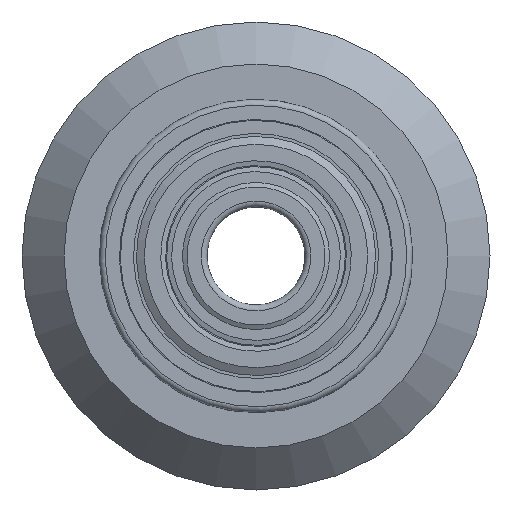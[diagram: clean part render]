
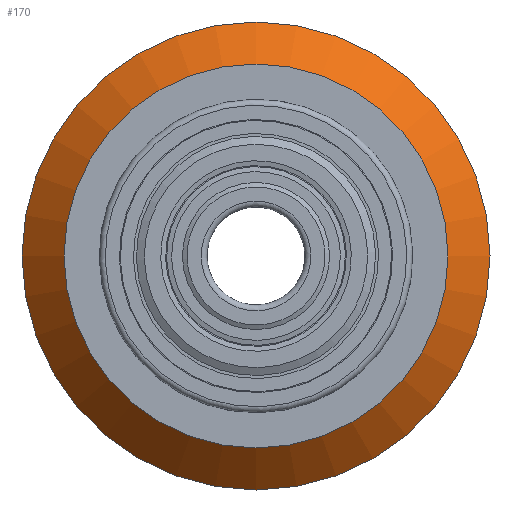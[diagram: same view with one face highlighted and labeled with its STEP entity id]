
A CAD part, left-side view. The second image highlights one B-rep face of the part: STEP entity #170.
In plain terms, the highlighted conical face has half-angle 45 degrees and reference radius 11.95 mm.
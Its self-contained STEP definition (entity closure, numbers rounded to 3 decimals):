
#115 = PLANE('',#116);
#116 = AXIS2_PLACEMENT_3D('',#117,#118,#119);
#117 = CARTESIAN_POINT('',(-5.115,8.,0.));
#118 = DIRECTION('',(-1.,0.,0.));
#119 = DIRECTION('',(0.,0.,1.));
#138 = EDGE_CURVE('',#139,#139,#141,.T.);
#139 = VERTEX_POINT('',#140);
#140 = CARTESIAN_POINT('',(-5.115,0.,-9.805));
#141 = SURFACE_CURVE('',#142,(#147,#158),.PCURVE_S1.);
#142 = CIRCLE('',#143,9.805);
#143 = AXIS2_PLACEMENT_3D('',#144,#145,#146);
#144 = CARTESIAN_POINT('',(-5.115,0.,0.));
#145 = DIRECTION('',(1.,0.,0.));
#146 = DIRECTION('',(0.,0.,-1.));
#147 = PCURVE('',#115,#148);
#148 = DEFINITIONAL_REPRESENTATION('',(#149),#157);
#149 = ( BOUNDED_CURVE() B_SPLINE_CURVE(2,(#150,#151,#152,#153,#154,#155
,#156),.UNSPECIFIED.,.T.,.F.) B_SPLINE_CURVE_WITH_KNOTS((1,2,2,2,2,1),(
    -2.094,0.,2.094,4.189,6.283,
8.378),.UNSPECIFIED.) CURVE() GEOMETRIC_REPRESENTATION_ITEM() 
RATIONAL_B_SPLINE_CURVE((1.,0.5,1.,0.5,1.,0.5,1.)) REPRESENTATION_ITEM(
  '') );
#150 = CARTESIAN_POINT('',(-9.805,-8.));
#151 = CARTESIAN_POINT('',(-9.805,8.983));
#152 = CARTESIAN_POINT('',(4.903,0.491));
#153 = CARTESIAN_POINT('',(19.61,-8.));
#154 = CARTESIAN_POINT('',(4.903,-16.491));
#155 = CARTESIAN_POINT('',(-9.805,-24.983));
#156 = CARTESIAN_POINT('',(-9.805,-8.));
#157 = ( GEOMETRIC_REPRESENTATION_CONTEXT(2) 
PARAMETRIC_REPRESENTATION_CONTEXT() REPRESENTATION_CONTEXT('2D SPACE',''
  ) );
#158 = PCURVE('',#159,#164);
#159 = CONICAL_SURFACE('',#160,11.95,0.785);
#160 = AXIS2_PLACEMENT_3D('',#161,#162,#163);
#161 = CARTESIAN_POINT('',(-2.97,0.,0.));
#162 = DIRECTION('',(1.,0.,0.));
#163 = DIRECTION('',(0.,0.,-1.));
#164 = DEFINITIONAL_REPRESENTATION('',(#165),#169);
#165 = LINE('',#166,#167);
#166 = CARTESIAN_POINT('',(0.,-2.145));
#167 = VECTOR('',#168,1.);
#168 = DIRECTION('',(1.,0.));
#169 = ( GEOMETRIC_REPRESENTATION_CONTEXT(2) 
PARAMETRIC_REPRESENTATION_CONTEXT() REPRESENTATION_CONTEXT('2D SPACE',''
  ) );
#170 = ADVANCED_FACE('',(#171),#159,.T.);
#171 = FACE_BOUND('',#172,.T.);
#172 = EDGE_LOOP('',(#173,#174,#196,#223));
#173 = ORIENTED_EDGE('',*,*,#138,.T.);
#174 = ORIENTED_EDGE('',*,*,#175,.T.);
#175 = EDGE_CURVE('',#139,#176,#178,.T.);
#176 = VERTEX_POINT('',#177);
#177 = CARTESIAN_POINT('',(-2.97,0.,-11.95));
#178 = SEAM_CURVE('',#179,(#182,#189),.PCURVE_S1.);
#179 = B_SPLINE_CURVE_WITH_KNOTS('',1,(#180,#181),.UNSPECIFIED.,.F.,.F.,
  (2,2),(-3.033,0.),.PIECEWISE_BEZIER_KNOTS.);
#180 = CARTESIAN_POINT('',(-5.115,0.,-9.805));
#181 = CARTESIAN_POINT('',(-2.97,0.,-11.95));
#182 = PCURVE('',#159,#183);
#183 = DEFINITIONAL_REPRESENTATION('',(#184),#188);
#184 = LINE('',#185,#186);
#185 = CARTESIAN_POINT('',(6.283,0.));
#186 = VECTOR('',#187,1.);
#187 = DIRECTION('',(0.,1.));
#188 = ( GEOMETRIC_REPRESENTATION_CONTEXT(2) 
PARAMETRIC_REPRESENTATION_CONTEXT() REPRESENTATION_CONTEXT('2D SPACE',''
  ) );
#189 = PCURVE('',#159,#190);
#190 = DEFINITIONAL_REPRESENTATION('',(#191),#195);
#191 = LINE('',#192,#193);
#192 = CARTESIAN_POINT('',(0.,0.));
#193 = VECTOR('',#194,1.);
#194 = DIRECTION('',(0.,1.));
#195 = ( GEOMETRIC_REPRESENTATION_CONTEXT(2) 
PARAMETRIC_REPRESENTATION_CONTEXT() REPRESENTATION_CONTEXT('2D SPACE',''
  ) );
#196 = ORIENTED_EDGE('',*,*,#197,.F.);
#197 = EDGE_CURVE('',#176,#176,#198,.T.);
#198 = SURFACE_CURVE('',#199,(#204,#211),.PCURVE_S1.);
#199 = CIRCLE('',#200,11.95);
#200 = AXIS2_PLACEMENT_3D('',#201,#202,#203);
#201 = CARTESIAN_POINT('',(-2.97,0.,0.));
#202 = DIRECTION('',(1.,0.,0.));
#203 = DIRECTION('',(0.,0.,-1.));
#204 = PCURVE('',#159,#205);
#205 = DEFINITIONAL_REPRESENTATION('',(#206),#210);
#206 = LINE('',#207,#208);
#207 = CARTESIAN_POINT('',(0.,0.));
#208 = VECTOR('',#209,1.);
#209 = DIRECTION('',(1.,0.));
#210 = ( GEOMETRIC_REPRESENTATION_CONTEXT(2) 
PARAMETRIC_REPRESENTATION_CONTEXT() REPRESENTATION_CONTEXT('2D SPACE',''
  ) );
#211 = PCURVE('',#212,#217);
#212 = CYLINDRICAL_SURFACE('',#213,11.95);
#213 = AXIS2_PLACEMENT_3D('',#214,#215,#216);
#214 = CARTESIAN_POINT('',(0.,0.,0.));
#215 = DIRECTION('',(1.,0.,0.));
#216 = DIRECTION('',(0.,0.,-1.));
#217 = DEFINITIONAL_REPRESENTATION('',(#218),#222);
#218 = LINE('',#219,#220);
#219 = CARTESIAN_POINT('',(0.,-2.97));
#220 = VECTOR('',#221,1.);
#221 = DIRECTION('',(1.,0.));
#222 = ( GEOMETRIC_REPRESENTATION_CONTEXT(2) 
PARAMETRIC_REPRESENTATION_CONTEXT() REPRESENTATION_CONTEXT('2D SPACE',''
  ) );
#223 = ORIENTED_EDGE('',*,*,#175,.F.);
